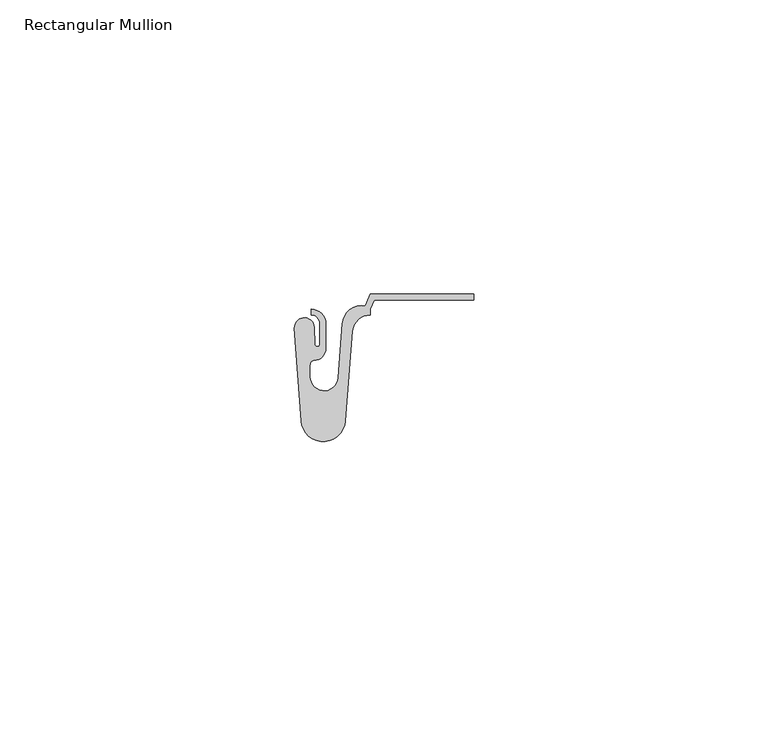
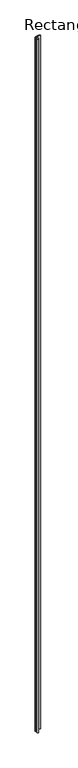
"""IFC4 building model written with IfcOpenShell, lengths in millimetres: member geometry, Rectangular Mullion : Stratco_Hiland_Tray Nailstrip_25mm Rib_Intermediate."""

from ifc_helpers import new_model, si_unit, point, frame, frame_2d, origin, place, context, project, spatial, polyline, circle_curve, trimmed, segment, composite_curve, outline, extrude, source, transform, mapped, element, save


def rectangular_mullion_1e4a568e(model_context):
    return source(origin(), model_context, "Body", "SweptSolid", [
        extrude(outline(composite_curve([segment(trimmed(circle_curve(frame_2d((-3.1614675, -5.620257)), 1.6668962), [point((-4.8275965, -5.6708248))], [point((-1.4953508, -5.5692832))], False, "CARTESIAN"), True, "CONTINUOUS"), segment(polyline([(-1.4953508, -5.5692832), (-1.4078707, -8.428624)]), True, "CONTINUOUS"), segment(trimmed(circle_curve(frame_2d((-0.9554831, -8.4147659)), 0.4525998), [point((-1.4078707, -8.428624))], [point((-0.5028833, -8.4147659))], True, "CARTESIAN"), True, "CONTINUOUS"), segment(polyline([(-0.5028833, -8.4147659), (-0.5028833, -4.9971229)]), True, "CONTINUOUS"), segment(trimmed(circle_curve(frame_2d((-2.0, -4.9971229)), 1.4971167), [point((-0.5028833, -4.9971229))], [point((-2.0, -3.5000063))], True, "CARTESIAN"), True, "CONTINUOUS"), segment(polyline([(-2.0, -3.5000063), (-2.0, -2.5000038)]), True, "CONTINUOUS"), segment(trimmed(circle_curve(frame_2d((-2.0, -4.9973044)), 2.4973006), [point((-2.0, -2.5000038))], [point((0.4973006, -4.9973044))], False, "CARTESIAN"), True, "CONTINUOUS"), segment(polyline([(0.4973006, -4.9973044), (0.4973006, -9.2101777)]), True, "CONTINUOUS"), segment(trimmed(circle_curve(frame_2d((-1.4401451, -9.2101777)), 1.9374457), [point((0.4973006, -9.2101777))], [point((-1.4943464, -11.1468651))], False, "CARTESIAN"), True, "CONTINUOUS"), segment(trimmed(circle_curve(frame_2d((-1.3057585, -12.0272941)), 0.9004003), [point((-1.4943464, -11.1468651))], [point((-2.2061588, -12.0272941))], True, "CARTESIAN"), True, "CONTINUOUS"), segment(polyline([(-2.2061588, -12.0272941), (-2.2061588, -13.9449093)]), True, "CONTINUOUS"), segment(trimmed(circle_curve(frame_2d((0.2184755, -13.9449093)), 2.4246342), [point((-2.2061588, -13.9449093))], [point((2.6368092, -14.1195889))], True, "CARTESIAN"), True, "CONTINUOUS"), segment(polyline([(2.6368092, -14.1195889), (3.2971755, -4.9775568)]), True, "CONTINUOUS"), segment(trimmed(circle_curve(frame_2d((6.6210361, -5.2176529)), 3.3325208), [point((3.2971755, -4.9775568))], [point((7.1604929, -1.9290846))], False, "CARTESIAN"), True, "CONTINUOUS"), segment(polyline([(7.1604929, -1.9290846), (8.0320421, 0.0284469), (25.5651563, 0.0284469), (25.5651563, -0.9715531), (8.6814497, -0.9715531), (8.0, -2.5021141), (8.0, -3.5)]), True, "CONTINUOUS"), segment(trimmed(circle_curve(frame_2d((7.9939157, -6.4999938)), 3.0), [point((8.0, -3.5))], [point((5.0103537, -6.1863733))], True, "CARTESIAN"), True, "CONTINUOUS"), segment(polyline([(5.0103537, -6.1863733), (3.8046119, -21.504468)]), True, "CONTINUOUS"), segment(trimmed(circle_curve(frame_2d((0.0551799, -21.2093368)), 3.7610294), [point((3.8046119, -21.504468))], [point((-3.6962532, -21.4778353))], False, "CARTESIAN"), True, "CONTINUOUS"), segment(polyline([(-3.6962532, -21.4778353), (-4.8275965, -5.6708248)]), True, "CONTINUOUS")], self_intersect=False)), frame((0.0, 0.0, -4000.0), z_axis=(0.0, 0.0, 1.0), x_axis=(1.0, 0.0, 0.0)), (0.0, 0.0, 1.0), 4000.0),
    ])


if __name__ == "__main__":
    model = new_model("IFC4")
    model_context = context("Model", 3, world=origin())
    ifc_project = project(units=[si_unit("LENGTHUNIT", "METRE", prefix="MILLI")], contexts=[model_context])
    site = spatial("IfcSite", under=ifc_project)
    building = spatial("IfcBuilding", under=site)
    placement = place(None, origin())
    rectangular_mullion_shape = rectangular_mullion_1e4a568e(model_context)
    element("IfcMember", 1, ObjectType="Rectangular Mullion : Stratco_Hiland_Tray Nailstrip_25mm Rib_Intermediate", at=placement, inside=building, context=model_context, shape_type="MappedRepresentation", body=[
        mapped(rectangular_mullion_shape, transform((0.0, 0.0, 0.0), x_axis=(1.0, 0.0, 0.0), y_axis=(0.0, 1.0, 0.0), z_axis=(0.0, 0.0, 1.0))),
    ])
    save(model, "model.ifc")
